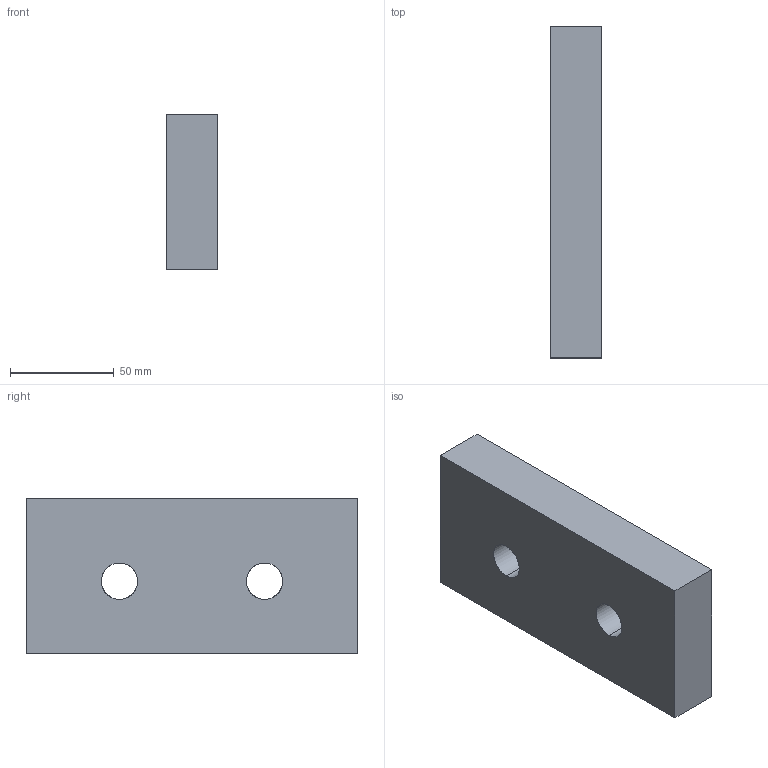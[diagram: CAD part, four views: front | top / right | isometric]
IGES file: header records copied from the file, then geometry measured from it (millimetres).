
Start section: START RECORD GO HERE.
Global section: file name: A612-075-160.igs; native system: DASSAULT SYSTEMES CATIA V5 R20 - www.3ds.com; preprocessor: CATIA Version 5 Release 20 ; author: Utente; organization: NB04-ASUS; date: 20200414.152507; units: millimetre
Bounding box: 25 x 160 x 75 mm (x, y, z)
Surface area: 37536.8 mm2 (no closed solid volume)
Topology: 0 solids, 0 shells, 10 faces, 48 edges, 48 vertices
Faces by surface type: extrusion 6, revolution 4
